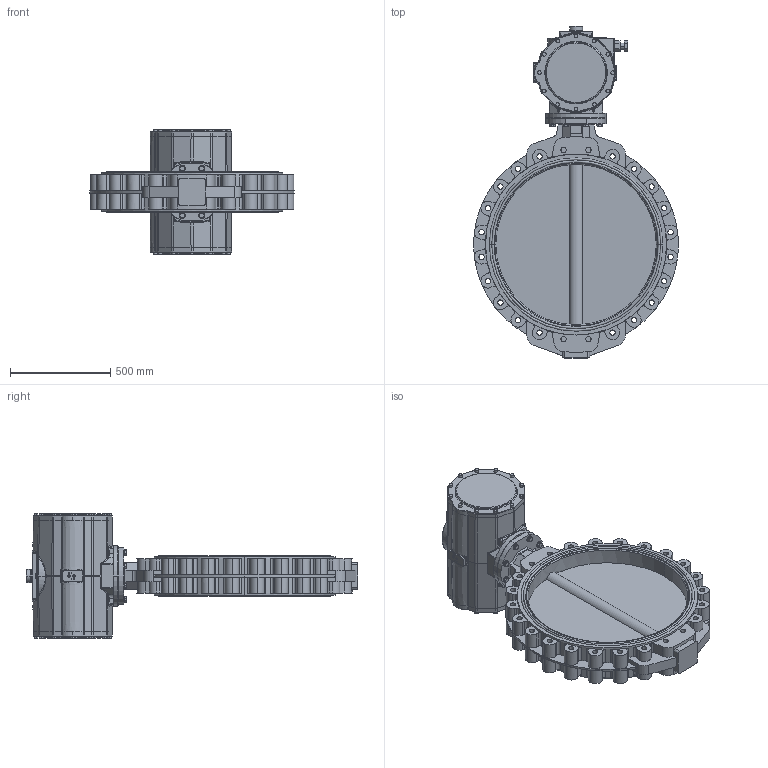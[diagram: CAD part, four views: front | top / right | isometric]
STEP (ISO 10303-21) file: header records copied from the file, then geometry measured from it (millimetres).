
FILE_DESCRIPTION (( 'STEP AP214' ), '1' );
FILE_NAME ('67727.step', '2020-10-26T07:15:36', ( '' ), ( '' ), 'SwSTEP 2.0', 'SolidWorks 2019', '' );
FILE_SCHEMA (( 'AUTOMOTIVE_DESIGN' ));
Length unit declared in the file: millimetre
Products named in the file (6): 67727; Flanschadapter F16-F25; U-Scheibe DIN 125 A_M16; TL20-0800_M01; DA4000-V55_01; 6kt-Schr DIN 933_M16x80
Assembly tree (19 placements, depth 2):
  67727
    TL20-0800_M01
    DA4000-V55_01
    6kt-Schr DIN 933_M16x80  x8
    U-Scheibe DIN 125 A_M16  x8
    Flanschadapter F16-F25
Bounding box: 1019.51 x 1654 x 626 mm (x, y, z)
Volume: 142376114.6 mm3; surface area: 4946946.1 mm2
Topology: 20 solids, 20 shells, 1545 faces, 3773 edges, 2361 vertices
Faces by surface type: cylinder 659, plane 590, bspline 115, cone 102, torus 77, sphere 2
Entity records: 46708 total; most frequent: CARTESIAN_POINT 10836, DIRECTION 7074, ORIENTED_EDGE 6594, EDGE_CURVE 3297, AXIS2_PLACEMENT_3D 2801, VERTEX_POINT 2081, CIRCLE 1580, EDGE_LOOP 1486
